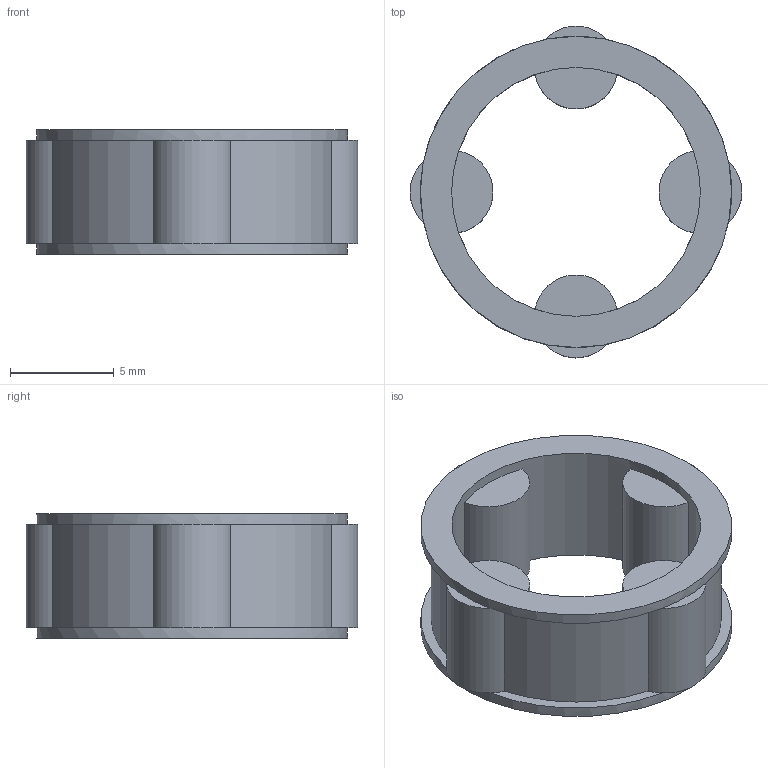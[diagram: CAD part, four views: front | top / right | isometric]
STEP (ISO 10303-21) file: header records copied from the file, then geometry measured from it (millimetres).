
FILE_DESCRIPTION(/* description */ (''),/* implementation_level */ '2;1');
FILE_NAME(/* name */ '303091 RL 416 - 4.stp',/* time_stamp */ '2016-11-10T14:34:13+01:00',/* author */ (''),/* organization */ (''),/* preprocessor_version */ 'ST-DEVELOPER v15',/* originating_system */ 'SIEMENS PLM Software NX 8.5',/* authorisation */ '');
FILE_SCHEMA (('CONFIG_CONTROL_DESIGN'));
Length unit declared in the file: millimetre
Products named in the file (1): ATE0000098_01
Bounding box: 16 x 16 x 6 mm (x, y, z)
Volume: 439.3 mm3; surface area: 759 mm2
Topology: 1 solids, 1 shells, 41 faces, 92 edges, 56 vertices
Faces by surface type: plane 26, cylinder 15
Full cylindrical faces by diameter (mm): 12 x1, 15 x2
Entity records: 1198 total; most frequent: DIRECTION 236, CARTESIAN_POINT 178, ORIENTED_EDGE 168, AXIS2_PLACEMENT_3D 110, EDGE_CURVE 84, CIRCLE 68, VERTEX_POINT 52, EDGE_LOOP 50
